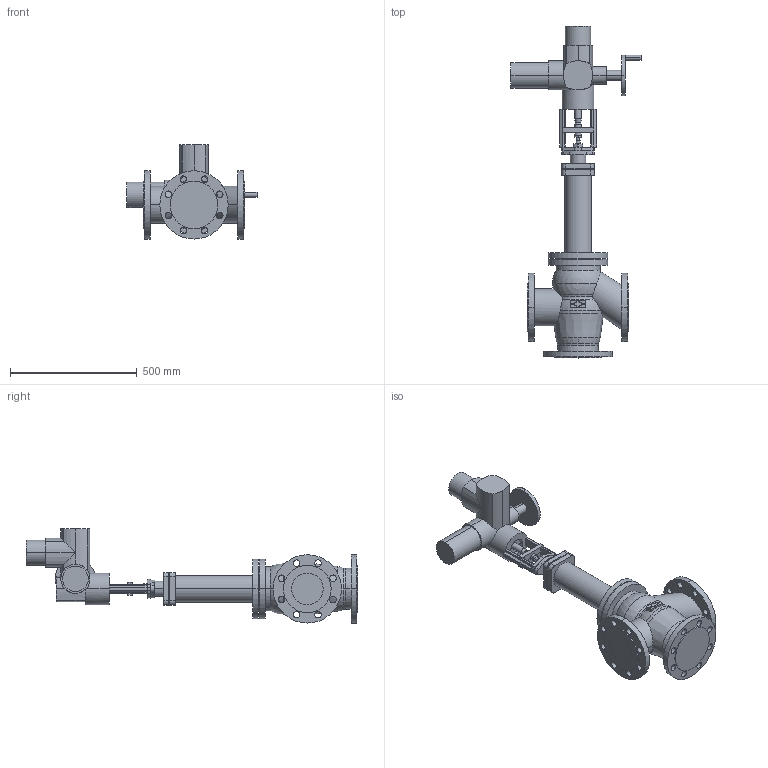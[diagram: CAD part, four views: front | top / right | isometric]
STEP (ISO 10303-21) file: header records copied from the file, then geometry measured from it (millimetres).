
FILE_DESCRIPTION(('OneSpaceDesigner STEP Export'),'2;1');
FILE_NAME('c000003211.stp','2007-01-25T12:01:16',(''),(''),'OneSpace Designer STEP processor for AP214 (Solid Model)','OneSpace Designer 14.00B 27-May-2006 (C) CoCreate Software GmbH','');
FILE_SCHEMA(('AUTOMOTIVE_DESIGN { 1 0 10303 214 1 1 1 1 }'));
Length unit declared in the file: millimetre
Products named in the file (2): 1; 2
Bounding box: 514 x 1311.2 x 372 mm (x, y, z)
Volume: 30634392 mm3; surface area: 1391984.2 mm2
Topology: 2 solids, 2 shells, 358 faces, 931 edges, 593 vertices
Faces by surface type: cylinder 182, plane 154, torus 8, sphere 8, cone 6
Entity records: 10473 total; most frequent: CARTESIAN_POINT 2280, ORIENTED_EDGE 1846, DIRECTION 1526, EDGE_CURVE 923, VERTEX_POINT 593, AXIS2_PLACEMENT_3D 532, VECTOR 462, LINE 462
